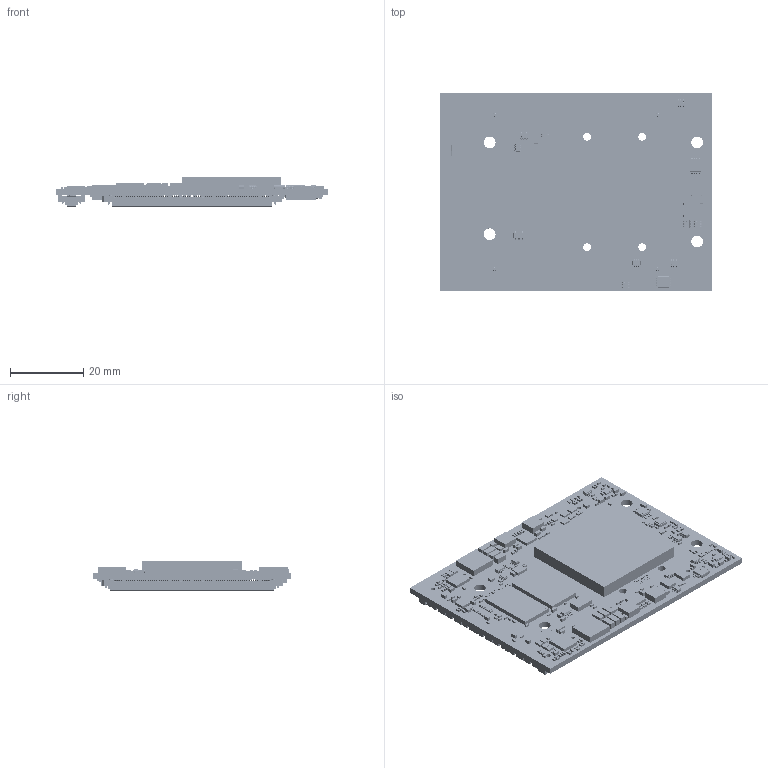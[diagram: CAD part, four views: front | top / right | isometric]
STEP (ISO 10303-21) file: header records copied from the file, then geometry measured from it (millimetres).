
FILE_DESCRIPTION(('Open CASCADE Model'),'2;1');
FILE_NAME('Open CASCADE Shape Model','2016-07-21T11:08:53',('Author'),( 'Open CASCADE'),'Open CASCADE STEP processor 6.8','Open CASCADE 6.8' ,'Unknown');
FILE_SCHEMA(('AUTOMOTIVE_DESIGN { 1 0 10303 214 1 1 1 1 }'));
Length unit declared in the file: millimetre
Products named in the file (568): --
Assembly tree (989 placements, depth 4):
  --
    --
    --
      --  x4
      --  x4
    --
      --  x4
      --  x4
    --
      --
        --
      --
        --
    --
      --
    --
      --
    --
      --
    --
      --
    --
      --
        --
        --
        --
        --
        --
        --
        --
    --
      --
        --
      --
        --
    --
      --
        --
      --
        --
    --
      --
        --
        --
        --  x3
    --
      --
        --
      --
        --
    --
      --
        --
      --
        --
    --
      --
        --
      --
        --
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Bounding box: 73.8 x 54 x 8.26 mm (x, y, z)
Volume: 12150.1 mm3; surface area: 21046.3 mm2
Topology: 1291 solids, 1291 shells, 20422 faces, 49392 edges, 32295 vertices
Faces by surface type: plane 18760, cylinder 841, bspline 761, sphere 38, cone 18, torus 4
Full cylindrical faces by diameter (mm): 0.2 x13, 0.3 x2, 0.4 x11, 1.1 x3, 1.2 x3, 2.1 x12, 2.6 x4, 3.2 x12, 3.7 x4, 6 x4, 6.4 x4
Entity records: 535361 total; most frequent: CARTESIAN_POINT 200667, DIRECTION 50388, LINE 35911, VECTOR 35911, ORIENTED_EDGE 29584, PCURVE 29584, DEFINITIONAL_REPRESENTATION 29584, EDGE_CURVE 14792
